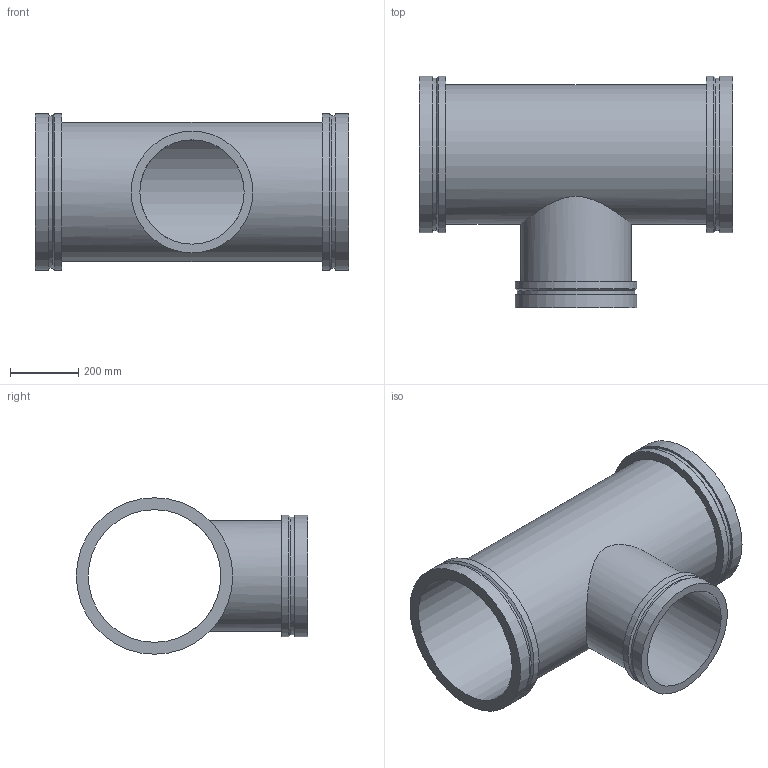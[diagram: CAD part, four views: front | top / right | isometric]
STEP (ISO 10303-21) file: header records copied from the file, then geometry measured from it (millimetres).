
FILE_DESCRIPTION(/* description */ ('VIC REDUCING TEE No W025 VR','CAx-IF Rec.Pracs.---Representation and Presentation of Product Manufacturing Information (PMI)---4.0---2014-10-13'),/* implementation_level */ '2;1');
FILE_NAME(/* name */ 'C:\Users\kkamble\AppData\Roaming\Autodesk\ApplicationPlugins\Back Up\Victaulic_Vic-Ring_Tee Reducing_No W25 VR (AGR)\Victaulic_Vic-Ring_Tee Reducing_No W25 VR (AGR)_16.0x12.0 (400x300).stp',/* time_stamp */ '2020-09-10T11:52:32+05:00',/* author */ ('mchristi'),/* organization */ ('Victaulic'),/* preprocessor_version */ 'ST-DEVELOPER v17.2',/* originating_system */ 'Autodesk Inventor 2019',/* authorisation */ '');
FILE_SCHEMA (('AP242_MANAGED_MODEL_BASED_3D_ENGINEERING_MIM_LF { 1 0 10303 442 1 1 4 }'));
Length unit declared in the file: inch
Products named in the file (1): W25 VR-16.0x12.0
Bounding box: 914.4 x 676.15 x 457.2 mm (x, y, z)
Volume: 18913715.5 mm3; surface area: 2943411.1 mm2
Topology: 1 solids, 1 shells, 25 faces, 68 edges, 52 vertices
Faces by surface type: cylinder 13, plane 9, cone 3
Full cylindrical faces by diameter (mm): 304.8 x1, 323.85 x1, 342.9 x1, 355.6 x2, 387.35 x1, 406.4 x1, 444.5 x2, 457.2 x4
Entity records: 1171 total; most frequent: CARTESIAN_POINT 327, DIRECTION 190, ORIENTED_EDGE 136, AXIS2_PLACEMENT_3D 87, EDGE_CURVE 68, VERTEX_POINT 52, CIRCLE 48, EDGE_LOOP 36
